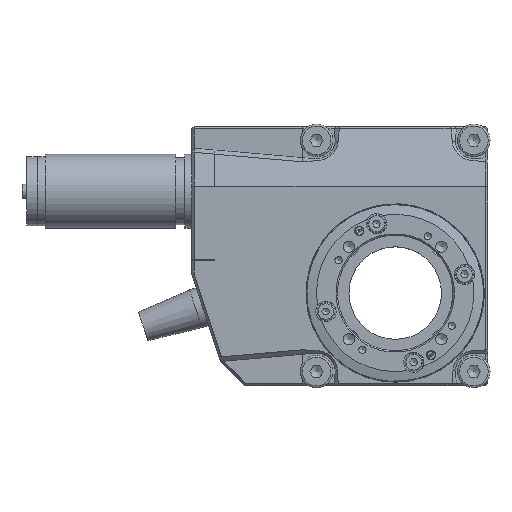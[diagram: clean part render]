
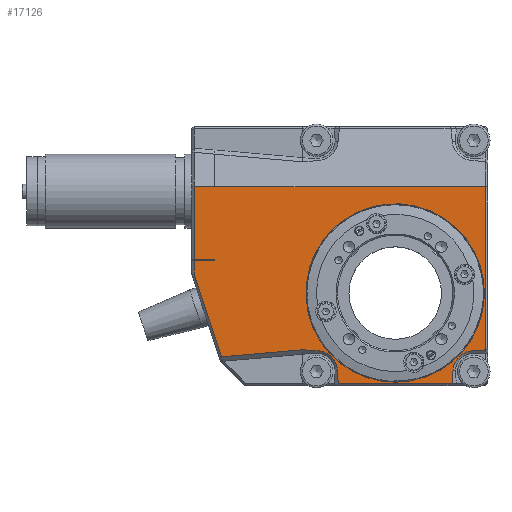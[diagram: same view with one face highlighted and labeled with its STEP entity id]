
A CAD part, top view. The second image highlights one B-rep face of the part: STEP entity #17126.
In plain terms, the highlighted planar face has unit normal (0, 0, 1).
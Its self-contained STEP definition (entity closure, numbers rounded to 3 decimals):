
#996=CARTESIAN_POINT('',(600.,-48.276,19.));
#997=VERTEX_POINT('',#996);
#1012=CARTESIAN_POINT('',(600.,-48.279,19.));
#1013=VERTEX_POINT('',#1012);
#1020=CARTESIAN_POINT('',(600.,-48.279,19.));
#1021=DIRECTION('',(0.0,1.0,0.0));
#1022=VECTOR('',#1021,0.003);
#1023=LINE('',#1020,#1022);
#1024=EDGE_CURVE('',#1013,#997,#1023,.T.);
#2653=CARTESIAN_POINT('',(632.314,-55.5,19.));
#2654=VERTEX_POINT('',#2653);
#2661=CARTESIAN_POINT('',(607.686,-55.5,19.));
#2662=VERTEX_POINT('',#2661);
#2663=CARTESIAN_POINT('',(632.314,-55.5,19.));
#2664=DIRECTION('',(-1.0,0.0,0.0));
#2665=VECTOR('',#2664,24.628);
#2666=LINE('',#2663,#2665);
#2667=EDGE_CURVE('',#2654,#2662,#2666,.T.);
#2860=CARTESIAN_POINT('',(639.5,-13.,19.));
#2861=VERTEX_POINT('',#2860);
#2862=CARTESIAN_POINT('',(639.5,-48.314,19.));
#2863=VERTEX_POINT('',#2862);
#2864=CARTESIAN_POINT('',(639.5,-13.,19.));
#2865=DIRECTION('',(0.0,-1.0,0.0));
#2866=VECTOR('',#2865,35.314);
#2867=LINE('',#2864,#2866);
#2868=EDGE_CURVE('',#2861,#2863,#2867,.T.);
#3178=CARTESIAN_POINT('',(636.686,-48.511,19.));
#3179=VERTEX_POINT('',#3178);
#3180=CARTESIAN_POINT('',(636.686,-48.511,19.));
#3181=DIRECTION('',(0.998,0.07,0.0));
#3182=VECTOR('',#3181,2.821);
#3183=LINE('',#3180,#3182);
#3184=EDGE_CURVE('',#3179,#2863,#3183,.T.);
#3860=CARTESIAN_POINT('',(632.511,-52.686,19.));
#3861=VERTEX_POINT('',#3860);
#3868=CARTESIAN_POINT('',(632.314,-55.5,19.));
#3869=DIRECTION('',(0.07,0.998,0.0));
#3870=VECTOR('',#3869,2.821);
#3871=LINE('',#3868,#3870);
#3872=EDGE_CURVE('',#2654,#3861,#3871,.T.);
#3891=CARTESIAN_POINT('',(637.,-53.,19.));
#3892=DIRECTION('',(0.0,0.0,-1.0));
#3893=DIRECTION('',(-1.0,0.0,0.0));
#3894=AXIS2_PLACEMENT_3D('',#3891,#3892,#3893);
#3895=CIRCLE('',#3894,4.5);
#3896=EDGE_CURVE('',#3861,#3179,#3895,.T.);
#3909=CARTESIAN_POINT('',(607.489,-52.686,19.));
#3910=VERTEX_POINT('',#3909);
#3911=CARTESIAN_POINT('',(607.489,-52.686,19.));
#3912=DIRECTION('',(0.07,-0.998,0.0));
#3913=VECTOR('',#3912,2.821);
#3914=LINE('',#3911,#3913);
#3915=EDGE_CURVE('',#3910,#2662,#3914,.T.);
#3948=CARTESIAN_POINT('',(603.314,-48.511,19.));
#3949=VERTEX_POINT('',#3948);
#3950=CARTESIAN_POINT('',(600.,-48.279,19.));
#3951=DIRECTION('',(0.998,-0.07,0.0));
#3952=VECTOR('',#3951,3.322);
#3953=LINE('',#3950,#3952);
#3954=EDGE_CURVE('',#1013,#3949,#3953,.T.);
#3988=CARTESIAN_POINT('',(603.,-53.,19.));
#3989=DIRECTION('',(0.0,0.0,-1.0));
#3990=DIRECTION('',(0.0,1.0,0.0));
#3991=AXIS2_PLACEMENT_3D('',#3988,#3989,#3990);
#3992=CIRCLE('',#3991,4.5);
#3993=EDGE_CURVE('',#3949,#3910,#3992,.T.);
#5734=CARTESIAN_POINT('',(620.,-55.3,19.));
#5735=VERTEX_POINT('',#5734);
#5736=CARTESIAN_POINT('',(620.,-36.,19.));
#5737=DIRECTION('',(0.0,0.0,-1.0));
#5738=DIRECTION('',(0.0,-1.0,0.0));
#5739=AXIS2_PLACEMENT_3D('',#5736,#5737,#5738);
#5740=CIRCLE('',#5739,19.3);
#5741=EDGE_CURVE('',#5735,#5735,#5740,.T.);
#15646=CARTESIAN_POINT('',(576.5,-29.,19.));
#15647=VERTEX_POINT('',#15646);
#15656=CARTESIAN_POINT('',(581.,-29.,19.));
#15657=VERTEX_POINT('',#15656);
#15658=CARTESIAN_POINT('',(581.,-29.,19.));
#15659=DIRECTION('',(-1.0,0.0,0.0));
#15660=VECTOR('',#15659,4.5);
#15661=LINE('',#15658,#15660);
#15662=EDGE_CURVE('',#15657,#15647,#15661,.T.);
#16943=CARTESIAN_POINT('',(582.464,-49.811,19.));
#16944=VERTEX_POINT('',#16943);
#16960=CARTESIAN_POINT('',(600.,-48.276,19.));
#16961=DIRECTION('',(-0.996,-0.087,0.0));
#16962=VECTOR('',#16961,17.603);
#16963=LINE('',#16960,#16962);
#16964=EDGE_CURVE('',#997,#16944,#16963,.T.);
#17027=CARTESIAN_POINT('',(576.5,-31.919,19.));
#17028=VERTEX_POINT('',#17027);
#17043=CARTESIAN_POINT('',(582.464,-49.811,19.));
#17044=DIRECTION('',(-0.316,0.949,0.0));
#17045=VECTOR('',#17044,18.859);
#17046=LINE('',#17043,#17045);
#17047=EDGE_CURVE('',#16944,#17028,#17046,.T.);
#17052=CARTESIAN_POINT('',(576.,-56.,19.));
#17053=DIRECTION('',(0.0,0.0,1.0));
#17054=DIRECTION('',(1.0,0.0,0.0));
#17055=AXIS2_PLACEMENT_3D('',#17052,#17053,#17054);
#17056=PLANE('',#17055);
#17057=CARTESIAN_POINT('',(576.5,-31.919,19.));
#17058=DIRECTION('',(0.0,1.0,0.0));
#17059=VECTOR('',#17058,2.919);
#17060=LINE('',#17057,#17059);
#17061=EDGE_CURVE('',#17028,#15647,#17060,.T.);
#17062=ORIENTED_EDGE('',*,*,#17061,.F.);
#17063=ORIENTED_EDGE('',*,*,#17047,.F.);
#17064=ORIENTED_EDGE('',*,*,#16964,.F.);
#17065=ORIENTED_EDGE('',*,*,#1024,.F.);
#17066=ORIENTED_EDGE('',*,*,#3954,.T.);
#17067=ORIENTED_EDGE('',*,*,#3993,.T.);
#17068=ORIENTED_EDGE('',*,*,#3915,.T.);
#17069=ORIENTED_EDGE('',*,*,#2667,.F.);
#17070=ORIENTED_EDGE('',*,*,#3872,.T.);
#17071=ORIENTED_EDGE('',*,*,#3896,.T.);
#17072=ORIENTED_EDGE('',*,*,#3184,.T.);
#17073=ORIENTED_EDGE('',*,*,#2868,.F.);
#17074=CARTESIAN_POINT('',(581.,-13.,19.));
#17075=VERTEX_POINT('',#17074);
#17076=CARTESIAN_POINT('',(639.5,-13.,19.));
#17077=DIRECTION('',(-1.0,0.0,0.0));
#17078=VECTOR('',#17077,58.5);
#17079=LINE('',#17076,#17078);
#17080=EDGE_CURVE('',#2861,#17075,#17079,.T.);
#17081=ORIENTED_EDGE('',*,*,#17080,.T.);
#17082=CARTESIAN_POINT('',(581.,-12.9,19.));
#17083=VERTEX_POINT('',#17082);
#17084=CARTESIAN_POINT('',(581.,-13.,19.));
#17085=DIRECTION('',(0.0,1.0,0.));
#17086=VECTOR('',#17085,0.1);
#17087=LINE('',#17084,#17086);
#17088=EDGE_CURVE('',#17075,#17083,#17087,.T.);
#17089=ORIENTED_EDGE('',*,*,#17088,.T.);
#17090=CARTESIAN_POINT('',(576.5,-12.9,19.));
#17091=VERTEX_POINT('',#17090);
#17092=CARTESIAN_POINT('',(581.,-12.9,19.));
#17093=DIRECTION('',(-1.0,0.0,0.0));
#17094=VECTOR('',#17093,4.5);
#17095=LINE('',#17092,#17094);
#17096=EDGE_CURVE('',#17083,#17091,#17095,.T.);
#17097=ORIENTED_EDGE('',*,*,#17096,.T.);
#17098=CARTESIAN_POINT('',(576.5,-28.8,19.));
#17099=VERTEX_POINT('',#17098);
#17100=CARTESIAN_POINT('',(576.5,-28.8,19.));
#17101=DIRECTION('',(0.0,1.0,0.0));
#17102=VECTOR('',#17101,15.9);
#17103=LINE('',#17100,#17102);
#17104=EDGE_CURVE('',#17099,#17091,#17103,.T.);
#17105=ORIENTED_EDGE('',*,*,#17104,.F.);
#17106=CARTESIAN_POINT('',(581.,-28.8,19.));
#17107=VERTEX_POINT('',#17106);
#17108=CARTESIAN_POINT('',(581.,-28.8,19.));
#17109=DIRECTION('',(-1.0,0.0,0.0));
#17110=VECTOR('',#17109,4.5);
#17111=LINE('',#17108,#17110);
#17112=EDGE_CURVE('',#17107,#17099,#17111,.T.);
#17113=ORIENTED_EDGE('',*,*,#17112,.F.);
#17114=CARTESIAN_POINT('',(581.,-28.8,19.));
#17115=DIRECTION('',(0.0,-1.0,0.));
#17116=VECTOR('',#17115,0.2);
#17117=LINE('',#17114,#17116);
#17118=EDGE_CURVE('',#17107,#15657,#17117,.T.);
#17119=ORIENTED_EDGE('',*,*,#17118,.T.);
#17120=ORIENTED_EDGE('',*,*,#15662,.T.);
#17121=EDGE_LOOP('',(#17062,#17063,#17064,#17065,#17066,#17067,#17068,#17069,#17070,#17071,#17072,#17073,#17081,#17089,#17097,#17105,#17113,#17119,#17120));
#17122=FACE_OUTER_BOUND('',#17121,.T.);
#17123=ORIENTED_EDGE('',*,*,#5741,.T.);
#17124=EDGE_LOOP('',(#17123));
#17125=FACE_BOUND('',#17124,.T.);
#17126=ADVANCED_FACE('',(#17122,#17125),#17056,.T.);
